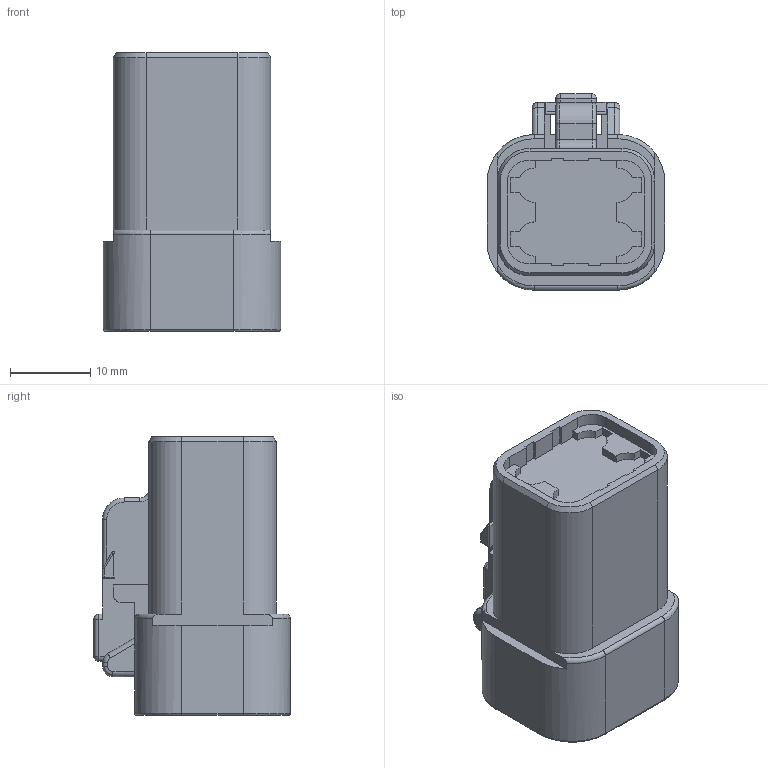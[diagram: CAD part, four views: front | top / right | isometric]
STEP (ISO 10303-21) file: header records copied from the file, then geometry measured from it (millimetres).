
FILE_DESCRIPTION((''),'2;1');
FILE_NAME('C-DTP06-4S-E004','2013-05-13T',('workeradm'),('Tyco Electronics Ltd.'),'PRO/ENGINEER BY PARAMETRIC TECHNOLOGY CORPORATION, 2011490','PRO/ENGINEER BY PARAMETRIC TECHNOLOGY CORPORATION, 2011490','');
FILE_SCHEMA(('AUTOMOTIVE_DESIGN { 1 0 10303 214 1 1 1 1 }'));
Length unit declared in the file: millimetre
Products named in the file (1): C-DTP06-4S-E004
Bounding box: 22.05 x 24.38 x 34.65 mm (x, y, z)
Volume: 11174.5 mm3; surface area: 3798.2 mm2
Topology: 1 solids, 1 shells, 287 faces, 712 edges, 450 vertices
Faces by surface type: plane 142, cylinder 83, torus 29, bspline 23, sphere 6, cone 4
Entity records: 9400 total; most frequent: CARTESIAN_POINT 2151, DIRECTION 1486, ORIENTED_EDGE 1424, EDGE_CURVE 712, AXIS2_PLACEMENT_3D 530, VERTEX_POINT 450, VECTOR 426, LINE 426
